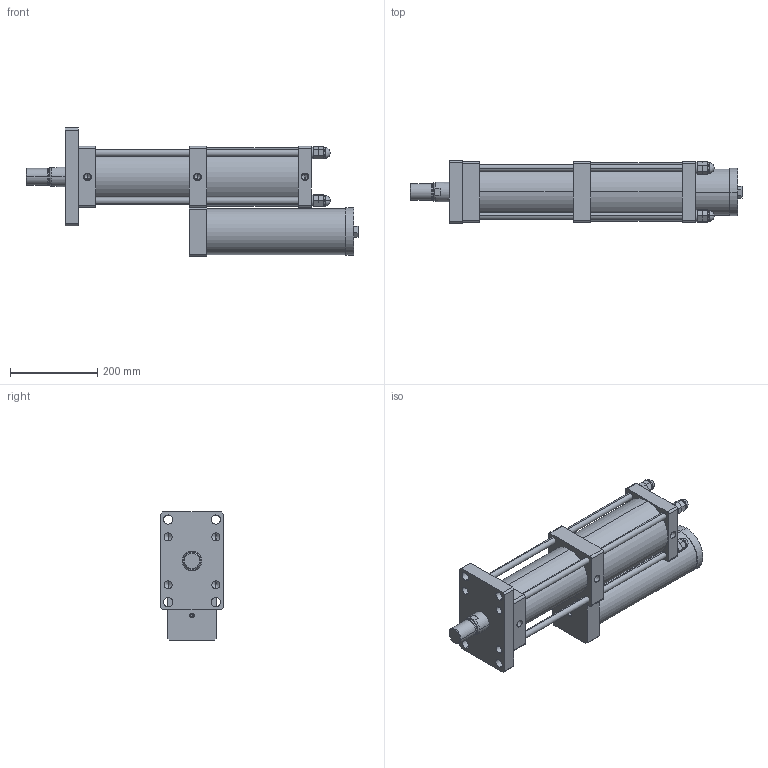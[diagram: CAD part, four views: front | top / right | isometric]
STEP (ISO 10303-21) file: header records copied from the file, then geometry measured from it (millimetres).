
FILE_DESCRIPTION (( 'STEP AP203' ), '1' );
FILE_NAME ('MPT-100-150-10-13T.STEP', '2016-03-28T10:20:13', ( 'WIN' ), ( '' ), 'SwSTEP 2.0', 'SolidWorks 2014', '' );
FILE_SCHEMA (( 'CONFIG_CONTROL_DESIGN' ));
Length unit declared in the file: millimetre
Products named in the file (1): MPT-100-150-10-13T
Bounding box: 763 x 145 x 294.5 mm (x, y, z)
Volume: 12250074.7 mm3; surface area: 762198.2 mm2
Topology: 13 solids, 13 shells, 400 faces, 980 edges, 555 vertices
Faces by surface type: plane 188, cylinder 80, torus 48, bspline 48, cone 36
Entity records: 12751 total; most frequent: CARTESIAN_POINT 3688, DIRECTION 1936, ORIENTED_EDGE 1812, EDGE_CURVE 906, AXIS2_PLACEMENT_3D 727, VERTEX_POINT 555, LINE 482, VECTOR 482
